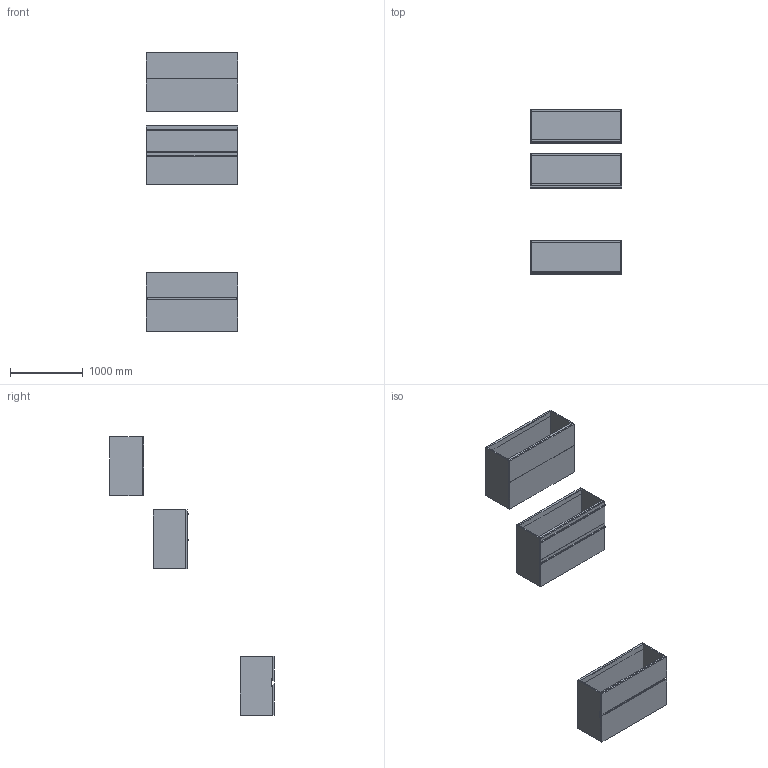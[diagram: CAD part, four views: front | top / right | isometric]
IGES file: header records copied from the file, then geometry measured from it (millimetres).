
Start section: Data from Parasolid IGES Translator 19.0.9, Copyright(c) 2006 Siemens PL M Software. All Rights Reserved.
Global section: file name: noorth-SI-H 81,2 D 47 W 126_8703.igs; native system: By Siemens PLM Incorporated; preprocessor: XPlus GENERIC/IGES 19.0.9; author: Noname; organization: Noname; date: 20200601.140039; units: metre
Bounding box: 1260 x 2270 x 3842 mm (x, y, z)
Volume: 138070230.2 mm3; surface area: 21861860.4 mm2
Topology: 27 solids, 27 shells, 266 faces, 580 edges, 348 vertices
Faces by surface type: plane 182, extrusion 36, bspline 32, cylinder 16
